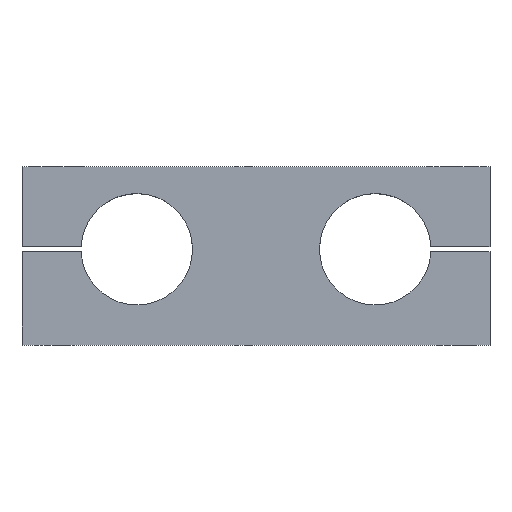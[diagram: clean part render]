
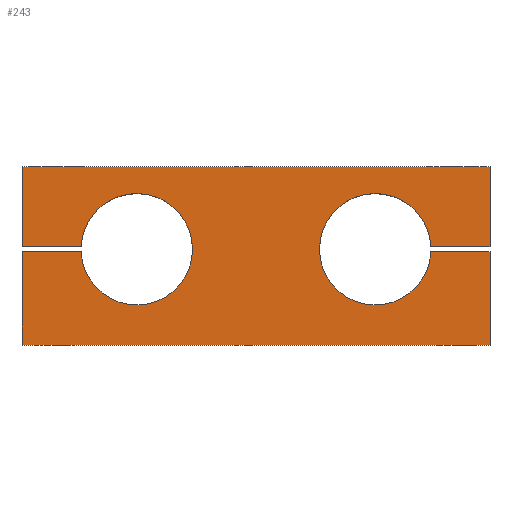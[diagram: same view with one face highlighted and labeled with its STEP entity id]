
A CAD part, top view. The second image highlights one B-rep face of the part: STEP entity #243.
In plain terms, the highlighted planar face has unit normal (0, 0, 1).
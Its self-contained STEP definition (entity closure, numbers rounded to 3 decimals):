
#2 = EDGE_LOOP ( 'NONE', ( #797, #858, #62, #1083, #713, #536, #701, #976, #30, #738, #7, #269, #268 ) ) ;
#7 = ORIENTED_EDGE ( 'NONE', *, *, #1074, .T. ) ;
#30 = ORIENTED_EDGE ( 'NONE', *, *, #887, .F. ) ;
#32 = VERTEX_POINT ( 'NONE', #1026 ) ;
#44 = VECTOR ( 'NONE', #158, 1000. ) ;
#48 = LINE ( 'NONE', #127, #706 ) ;
#55 = VERTEX_POINT ( 'NONE', #156 ) ;
#57 = CARTESIAN_POINT ( 'NONE',  ( 105., -40., 15. ) ) ;
#62 = ORIENTED_EDGE ( 'NONE', *, *, #695, .F. ) ;
#76 = VERTEX_POINT ( 'NONE', #916 ) ;
#82 = VECTOR ( 'NONE', #264, 1000. ) ;
#86 = LINE ( 'NONE', #999, #1104 ) ;
#113 = CARTESIAN_POINT ( 'NONE',  ( 0., 0., 15. ) ) ;
#127 = CARTESIAN_POINT ( 'NONE',  ( -105., 1.925, 15. ) ) ;
#135 = DIRECTION ( 'NONE',  ( 0., 1., 0. ) ) ;
#148 = EDGE_CURVE ( 'NONE', #453, #55, #368, .T. ) ;
#153 = CARTESIAN_POINT ( 'NONE',  ( 105., 40., 15. ) ) ;
#156 = CARTESIAN_POINT ( 'NONE',  ( -105., 4.075, 15. ) ) ;
#158 = DIRECTION ( 'NONE',  ( 1., 0., 0. ) ) ;
#190 = LINE ( 'NONE', #772, #82 ) ;
#192 = EDGE_CURVE ( 'NONE', #567, #55, #190, .T. ) ;
#205 = VERTEX_POINT ( 'NONE', #586 ) ;
#208 = LINE ( 'NONE', #987, #956 ) ;
#209 = DIRECTION ( 'NONE',  ( 0., 0., 1. ) ) ;
#218 = AXIS2_PLACEMENT_3D ( 'NONE', #527, #209, #871 ) ;
#235 = CARTESIAN_POINT ( 'NONE',  ( 105., 40., 15. ) ) ;
#238 = LINE ( 'NONE', #910, #44 ) ;
#243 = ADVANCED_FACE ( 'NONE', ( #606 ), #861, .T. ) ;
#244 = DIRECTION ( 'NONE',  ( 1., 0., 0. ) ) ;
#247 = DIRECTION ( 'NONE',  ( 1., 0., 0. ) ) ;
#264 = DIRECTION ( 'NONE',  ( -1., 0., 0. ) ) ;
#268 = ORIENTED_EDGE ( 'NONE', *, *, #148, .T. ) ;
#269 = ORIENTED_EDGE ( 'NONE', *, *, #651, .T. ) ;
#279 = DIRECTION ( 'NONE',  ( 0., -1., 0. ) ) ;
#286 = VECTOR ( 'NONE', #1008, 1000. ) ;
#304 = CARTESIAN_POINT ( 'NONE',  ( 105., 40., 15. ) ) ;
#308 = LINE ( 'NONE', #153, #758 ) ;
#323 = CARTESIAN_POINT ( 'NONE',  ( -28.5, 3., 15. ) ) ;
#339 = EDGE_CURVE ( 'NONE', #205, #542, #208, .T. ) ;
#350 = CARTESIAN_POINT ( 'NONE',  ( -78.477, 4.075, 15. ) ) ;
#359 = EDGE_CURVE ( 'NONE', #76, #883, #48, .T. ) ;
#368 = LINE ( 'NONE', #697, #426 ) ;
#390 = DIRECTION ( 'NONE',  ( 1., 0., 0. ) ) ;
#400 = EDGE_CURVE ( 'NONE', #403, #770, #308, .T. ) ;
#401 = VERTEX_POINT ( 'NONE', #235 ) ;
#402 = DIRECTION ( 'NONE',  ( 1., 0., 0. ) ) ;
#403 = VERTEX_POINT ( 'NONE', #57 ) ;
#407 = EDGE_CURVE ( 'NONE', #523, #567, #982, .T. ) ;
#425 = CARTESIAN_POINT ( 'NONE',  ( -105., 40., 15. ) ) ;
#426 = VECTOR ( 'NONE', #279, 1000. ) ;
#432 = CARTESIAN_POINT ( 'NONE',  ( -78.477, 1.925, 15. ) ) ;
#451 = VECTOR ( 'NONE', #135, 1000. ) ;
#453 = VERTEX_POINT ( 'NONE', #994 ) ;
#477 = EDGE_CURVE ( 'NONE', #32, #770, #238, .T. ) ;
#490 = CIRCLE ( 'NONE', #1086, 25. ) ;
#498 = EDGE_CURVE ( 'NONE', #76, #508, #841, .T. ) ;
#508 = VERTEX_POINT ( 'NONE', #665 ) ;
#523 = VERTEX_POINT ( 'NONE', #323 ) ;
#527 = CARTESIAN_POINT ( 'NONE',  ( 53.5, 3., 15. ) ) ;
#536 = ORIENTED_EDGE ( 'NONE', *, *, #1071, .T. ) ;
#542 = VERTEX_POINT ( 'NONE', #1096 ) ;
#548 = LINE ( 'NONE', #304, #451 ) ;
#567 = VERTEX_POINT ( 'NONE', #350 ) ;
#572 = DIRECTION ( 'NONE',  ( -1., 0., 0. ) ) ;
#586 = CARTESIAN_POINT ( 'NONE',  ( 105., 4.075, 15. ) ) ;
#606 = FACE_OUTER_BOUND ( 'NONE', #2, .T. ) ;
#651 = EDGE_CURVE ( 'NONE', #401, #453, #86, .T. ) ;
#653 = CARTESIAN_POINT ( 'NONE',  ( 105., 1.925, 15. ) ) ;
#665 = CARTESIAN_POINT ( 'NONE',  ( -105., -40., 15. ) ) ;
#695 = EDGE_CURVE ( 'NONE', #883, #523, #490, .T. ) ;
#697 = CARTESIAN_POINT ( 'NONE',  ( -105., 40., 15. ) ) ;
#701 = ORIENTED_EDGE ( 'NONE', *, *, #400, .T. ) ;
#706 = VECTOR ( 'NONE', #402, 1000. ) ;
#713 = ORIENTED_EDGE ( 'NONE', *, *, #498, .T. ) ;
#733 = VECTOR ( 'NONE', #390, 1000. ) ;
#738 = ORIENTED_EDGE ( 'NONE', *, *, #339, .F. ) ;
#758 = VECTOR ( 'NONE', #926, 1000. ) ;
#770 = VERTEX_POINT ( 'NONE', #653 ) ;
#772 = CARTESIAN_POINT ( 'NONE',  ( -105., 4.075, 15. ) ) ;
#777 = CIRCLE ( 'NONE', #218, 25. ) ;
#797 = ORIENTED_EDGE ( 'NONE', *, *, #192, .F. ) ;
#828 = CARTESIAN_POINT ( 'NONE',  ( -53.5, 3., 15. ) ) ;
#841 = LINE ( 'NONE', #425, #286 ) ;
#846 = AXIS2_PLACEMENT_3D ( 'NONE', #113, #947, #875 ) ;
#858 = ORIENTED_EDGE ( 'NONE', *, *, #407, .F. ) ;
#861 = PLANE ( 'NONE',  #846 ) ;
#871 = DIRECTION ( 'NONE',  ( 1., 0., 0. ) ) ;
#875 = DIRECTION ( 'NONE',  ( 1., 0., 0. ) ) ;
#883 = VERTEX_POINT ( 'NONE', #432 ) ;
#887 = EDGE_CURVE ( 'NONE', #542, #32, #777, .T. ) ;
#910 = CARTESIAN_POINT ( 'NONE',  ( 52.5, 1.925, 15. ) ) ;
#916 = CARTESIAN_POINT ( 'NONE',  ( -105., 1.925, 15. ) ) ;
#917 = DIRECTION ( 'NONE',  ( 0., 0., 1. ) ) ;
#926 = DIRECTION ( 'NONE',  ( 0., 1., 0. ) ) ;
#947 = DIRECTION ( 'NONE',  ( 0., 0., 1. ) ) ;
#956 = VECTOR ( 'NONE', #1059, 1000. ) ;
#976 = ORIENTED_EDGE ( 'NONE', *, *, #477, .F. ) ;
#982 = CIRCLE ( 'NONE', #991, 25. ) ;
#987 = CARTESIAN_POINT ( 'NONE',  ( 52.5, 4.075, 15. ) ) ;
#991 = AXIS2_PLACEMENT_3D ( 'NONE', #828, #917, #247 ) ;
#994 = CARTESIAN_POINT ( 'NONE',  ( -105., 40., 15. ) ) ;
#999 = CARTESIAN_POINT ( 'NONE',  ( -105., 40., 15. ) ) ;
#1002 = CARTESIAN_POINT ( 'NONE',  ( -53.5, 3., 15. ) ) ;
#1008 = DIRECTION ( 'NONE',  ( 0., -1., 0. ) ) ;
#1026 = CARTESIAN_POINT ( 'NONE',  ( 78.477, 1.925, 15. ) ) ;
#1059 = DIRECTION ( 'NONE',  ( -1., 0., 0. ) ) ;
#1067 = CARTESIAN_POINT ( 'NONE',  ( -105., -40., 15. ) ) ;
#1071 = EDGE_CURVE ( 'NONE', #508, #403, #1076, .T. ) ;
#1074 = EDGE_CURVE ( 'NONE', #205, #401, #548, .T. ) ;
#1076 = LINE ( 'NONE', #1067, #733 ) ;
#1083 = ORIENTED_EDGE ( 'NONE', *, *, #359, .F. ) ;
#1086 = AXIS2_PLACEMENT_3D ( 'NONE', #1002, #1098, #244 ) ;
#1096 = CARTESIAN_POINT ( 'NONE',  ( 78.477, 4.075, 15. ) ) ;
#1098 = DIRECTION ( 'NONE',  ( 0., 0., 1. ) ) ;
#1104 = VECTOR ( 'NONE', #572, 1000. ) ;
